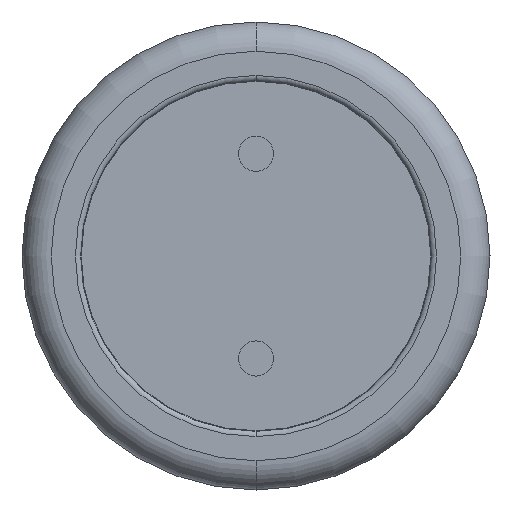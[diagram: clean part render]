
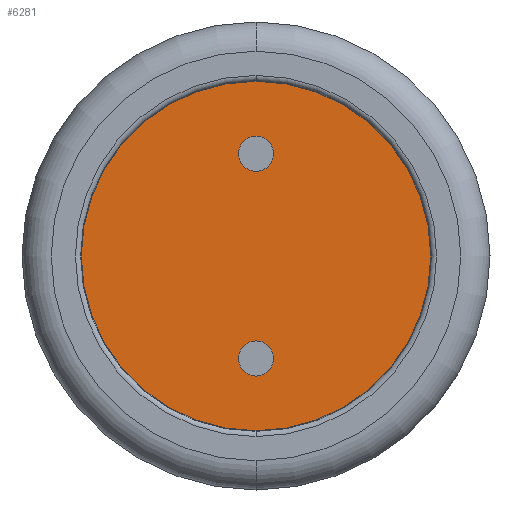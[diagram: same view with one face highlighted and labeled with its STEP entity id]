
A CAD part, left-side view. The second image highlights one B-rep face of the part: STEP entity #6281.
In plain terms, the highlighted planar face has unit normal (-1, 0, 0).
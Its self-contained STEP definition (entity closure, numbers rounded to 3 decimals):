
#40=CARTESIAN_POINT('',(-7.8,0.,0.002));
#41=DIRECTION('',(-1.,0.,0.));
#42=DIRECTION('',(0.,0.,-1.));
#43=AXIS2_PLACEMENT_3D('',#40,#41,#42);
#45=CARTESIAN_POINT('',(-7.8,0.,0.002));
#46=DIRECTION('',(1.,0.,0.));
#47=DIRECTION('',(0.,0.,-1.));
#48=AXIS2_PLACEMENT_3D('',#45,#46,#47);
#50=CARTESIAN_POINT('',(-7.8,0.,-1.75));
#51=DIRECTION('',(-1.,0.,0.));
#52=DIRECTION('',(0.,0.,-1.));
#53=AXIS2_PLACEMENT_3D('',#50,#51,#52);
#55=CARTESIAN_POINT('',(-7.8,0.,-1.75));
#56=DIRECTION('',(-1.,0.,0.));
#57=DIRECTION('',(0.,0.,1.));
#58=AXIS2_PLACEMENT_3D('',#55,#56,#57);
#60=CARTESIAN_POINT('',(-7.8,0.,1.75));
#61=DIRECTION('',(-1.,0.,0.));
#62=DIRECTION('',(0.,0.,-1.));
#63=AXIS2_PLACEMENT_3D('',#60,#61,#62);
#65=CARTESIAN_POINT('',(-7.8,0.,1.75));
#66=DIRECTION('',(-1.,0.,0.));
#67=DIRECTION('',(0.,0.,1.));
#68=AXIS2_PLACEMENT_3D('',#65,#66,#67);
#4734=CARTESIAN_POINT('',(-7.8,0.,-2.998));
#4735=VERTEX_POINT('',#4734);
#4736=CARTESIAN_POINT('',(-7.8,0.,3.002));
#4737=VERTEX_POINT('',#4736);
#4742=CARTESIAN_POINT('',(-7.8,0.,-2.05));
#4743=CARTESIAN_POINT('',(-7.8,0.,-1.45));
#4744=VERTEX_POINT('',#4742);
#4745=VERTEX_POINT('',#4743);
#4746=CARTESIAN_POINT('',(-7.8,0.,1.45));
#4747=CARTESIAN_POINT('',(-7.8,0.,2.05));
#4748=VERTEX_POINT('',#4746);
#4749=VERTEX_POINT('',#4747);
#6260=CARTESIAN_POINT('',(-7.8,0.,0.002));
#6261=DIRECTION('',(1.,0.,0.));
#6262=DIRECTION('',(0.,0.,1.));
#6263=AXIS2_PLACEMENT_3D('',#6260,#6261,#6262);
#6264=PLANE('',#6263);
#6265=ORIENTED_EDGE('',*,*,#6239,.F.);
#6266=ORIENTED_EDGE('',*,*,#6255,.T.);
#6267=EDGE_LOOP('',(#6265,#6266));
#6268=FACE_OUTER_BOUND('',#6267,.F.);
#6270=ORIENTED_EDGE('',*,*,#6269,.T.);
#6272=ORIENTED_EDGE('',*,*,#6271,.T.);
#6273=EDGE_LOOP('',(#6270,#6272));
#6274=FACE_BOUND('',#6273,.F.);
#6276=ORIENTED_EDGE('',*,*,#6275,.T.);
#6278=ORIENTED_EDGE('',*,*,#6277,.T.);
#6279=EDGE_LOOP('',(#6276,#6278));
#6280=FACE_BOUND('',#6279,.F.);
#6281=ADVANCED_FACE('',(#6268,#6274,#6280),#6264,.F.);
#44=CIRCLE('',#43,3.);
#49=CIRCLE('',#48,3.);
#54=CIRCLE('',#53,0.3);
#59=CIRCLE('',#58,0.3);
#64=CIRCLE('',#63,0.3);
#69=CIRCLE('',#68,0.3);
#6239=EDGE_CURVE('',#4735,#4737,#44,.T.);
#6255=EDGE_CURVE('',#4735,#4737,#49,.T.);
#6269=EDGE_CURVE('',#4744,#4745,#54,.T.);
#6271=EDGE_CURVE('',#4745,#4744,#59,.T.);
#6275=EDGE_CURVE('',#4748,#4749,#64,.T.);
#6277=EDGE_CURVE('',#4749,#4748,#69,.T.);
